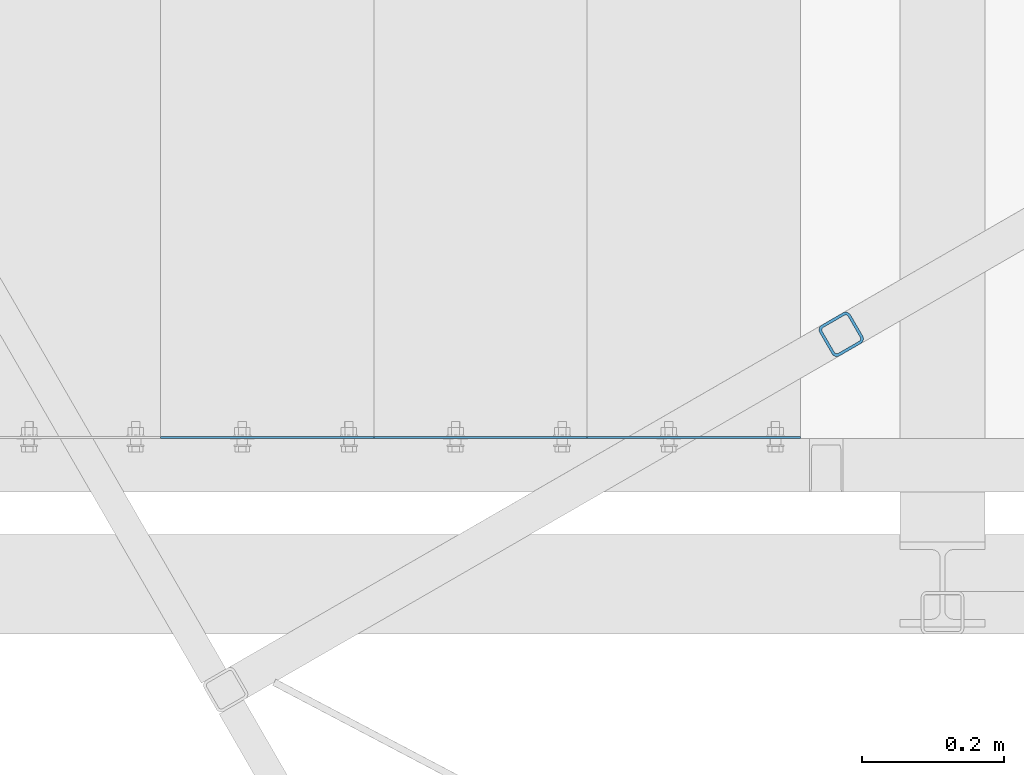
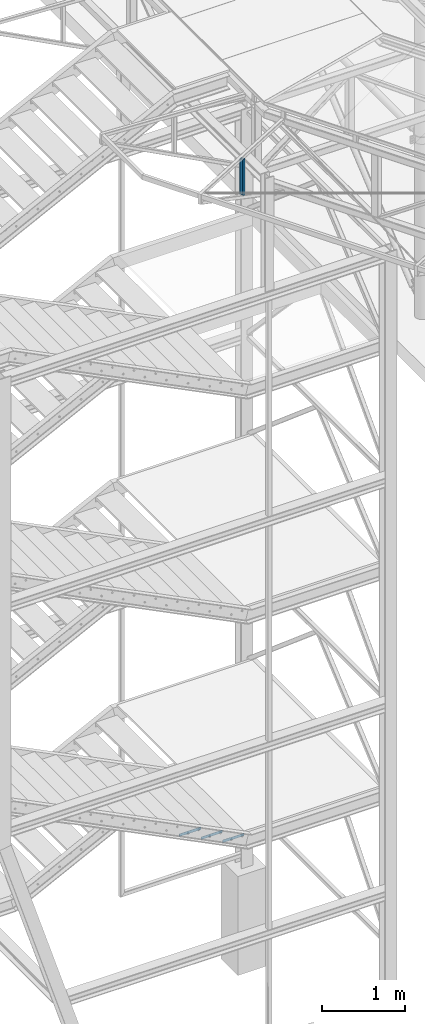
# One storey, part 67 of 132: 4 discrete accessories, 4 elements without a shape of their own.
"""IFC2X3 building model written with IfcOpenShell, lengths in millimetres."""

from ifc_helpers import new_model, si_unit, frame, origin_with_axes, origin_2d_with_axis, place, context, subcontext, project, spatial, rectangle, hollow_rectangle, extrude, clip, halfspace, material, type_object, element, aggregate, save


model = new_model("IFC2X3")

# Units and contexts
model_context = context("Model", 3, precision=1e-05, world=origin_with_axes())
body_context = subcontext(model_context, "Body", "Model", "MODEL_VIEW")
ifc_project = project(units=[si_unit("LENGTHUNIT", "METRE", prefix="MILLI"), si_unit("AREAUNIT", "SQUARE_METRE"), si_unit("VOLUMEUNIT", "CUBIC_METRE"), si_unit("MASSUNIT", "GRAM", prefix="KILO"), si_unit("TIMEUNIT", "SECOND"), si_unit("PLANEANGLEUNIT", "RADIAN"), si_unit("SOLIDANGLEUNIT", "STERADIAN"), si_unit("THERMODYNAMICTEMPERATUREUNIT", "DEGREE_CELSIUS"), si_unit("LUMINOUSINTENSITYUNIT", "LUMEN")], contexts=[model_context])

# Site, building, storey
site_placement = place(None, origin_with_axes())
site = spatial("IfcSite", under=ifc_project, at=site_placement, Name="Budowa", CompositionType="ELEMENT")
building_placement = place(site_placement, origin_with_axes())
building = spatial("IfcBuilding", under=site, at=building_placement, Name="Undefined", CompositionType="ELEMENT")
storey_placement = place(building_placement, origin_with_axes())
storey = spatial("IfcBuildingStorey", under=building, at=storey_placement, Name="Undefined", CompositionType="ELEMENT", Elevation=0.0)

# Assembly, discrete accessory
assembly_1_placement = place(storey_placement, origin_with_axes())
assembly_1 = element("IfcElementAssembly", 1, at=assembly_1_placement, inside=storey, Name="Steel Assembly", AssemblyPlace="NOTDEFINED", PredefinedType="RIGID_FRAME")
ifc_material_1 = material(Name="STEEL/S235")
discrete_accessory_type_1 = type_object("IfcDiscreteAccessoryType", Name="BEAM")
discrete_accessory_1_placement = place(assembly_1_placement, frame((-762.460903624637, 8021.84896381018, 13878.94002838), z_axis=(0.499969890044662, -0.866042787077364, 0.0), x_axis=(0.0, 0.0, -1.0)))
discrete_accessory_1 = element("IfcDiscreteAccessory", 2, at=discrete_accessory_1_placement, type_object=discrete_accessory_type_1, material=ifc_material_1, Name="BEAM", ObjectType="SHS50*4", context=body_context, shape_type="Clipping", body=[
    clip(clip(extrude(hollow_rectangle(XDim=50.0, YDim=50.0, WallThickness=4.0, InnerFilletRadius=4.0, OuterFilletRadius=8.0, at=origin_2d_with_axis()), frame((545.085010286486, 0.0, 0.0), z_axis=(-1.0, 0.0, 0.0), x_axis=(0.0, -1.0, 0.0)), (0.0, 0.0, 1.0), 559.36), halfspace(frame((536.667324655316, 11.6203888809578, 999.999999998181), z_axis=(-0.885407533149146, 0.464815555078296, 0.0), x_axis=(-0.464815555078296, -0.885407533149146, 0.0)), True)), halfspace(frame((0.185048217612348, -1.24844042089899, 999.999999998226), z_axis=(0.998752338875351, -0.0499376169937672, 0.0), x_axis=(0.0499376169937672, 0.998752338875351, 0.0)), True)),
])
aggregate(assembly_1, [discrete_accessory_1])

assembly_2_placement = place(storey_placement, origin_with_axes())
assembly_2 = element("IfcElementAssembly", 3, at=assembly_2_placement, inside=storey, Name="Steel Assembly", AssemblyPlace="NOTDEFINED", PredefinedType="RIGID_FRAME")
ifc_material_2 = material(Name="STEEL/S235JR")
discrete_accessory_type_2 = type_object("IfcDiscreteAccessoryType", Name="ANGLE")
discrete_accessory_2_placement = place(assembly_2_placement, frame((-1420.00000007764, 7876.50000004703, 4379.99999999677), z_axis=(0.0, 1.0, 0.0), x_axis=(-1.0, 0.0, 0.0)))
discrete_accessory_2 = element("IfcDiscreteAccessory", 4, at=discrete_accessory_2_placement, type_object=discrete_accessory_type_2, material=ifc_material_2, Name="ANGLE", ObjectType="3*40", context=body_context, shape_type="SweptSolid", body=[
    extrude(rectangle(XDim=40.0, YDim=3.0, at=origin_2d_with_axis()), frame((300.0, 0.0, 0.0), z_axis=(-1.0, 0.0, 0.0), x_axis=(0.0, -1.0, 0.0)), (0.0, 0.0, 1.0), 300.0),
])
aggregate(assembly_2, [discrete_accessory_2])

assembly_3_placement = place(storey_placement, origin_with_axes())
assembly_3 = element("IfcElementAssembly", 5, at=assembly_3_placement, inside=storey, Name="Steel Assembly", AssemblyPlace="NOTDEFINED", PredefinedType="RIGID_FRAME")
discrete_accessory_3_placement = place(assembly_3_placement, frame((-1120.00000007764, 7876.50000004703, 4229.99999999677), z_axis=(0.0, 1.0, 0.0), x_axis=(-1.0, 0.0, 0.0)))
discrete_accessory_3 = element("IfcDiscreteAccessory", 6, at=discrete_accessory_3_placement, type_object=discrete_accessory_type_2, material=ifc_material_2, Name="ANGLE", ObjectType="3*40", context=body_context, shape_type="SweptSolid", body=[
    extrude(rectangle(XDim=40.0, YDim=3.0, at=origin_2d_with_axis()), frame((300.0, 0.0, 0.0), z_axis=(-1.0, 0.0, 0.0), x_axis=(0.0, -1.0, 0.0)), (0.0, 0.0, 1.0), 300.0),
])
aggregate(assembly_3, [discrete_accessory_3])

assembly_4_placement = place(storey_placement, origin_with_axes())
assembly_4 = element("IfcElementAssembly", 7, at=assembly_4_placement, inside=storey, Name="Steel Assembly", AssemblyPlace="NOTDEFINED", PredefinedType="RIGID_FRAME")
discrete_accessory_4_placement = place(assembly_4_placement, frame((-820.000000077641, 7876.50000004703, 4079.99999999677), z_axis=(0.0, 1.0, 0.0), x_axis=(-1.0, 0.0, 0.0)))
discrete_accessory_4 = element("IfcDiscreteAccessory", 8, at=discrete_accessory_4_placement, type_object=discrete_accessory_type_2, material=ifc_material_2, Name="ANGLE", ObjectType="3*40", context=body_context, shape_type="SweptSolid", body=[
    extrude(rectangle(XDim=40.0, YDim=3.0, at=origin_2d_with_axis()), frame((300.0, 0.0, 0.0), z_axis=(-1.0, 0.0, 0.0), x_axis=(0.0, -1.0, 0.0)), (0.0, 0.0, 1.0), 300.0),
])
aggregate(assembly_4, [discrete_accessory_4])

save(model, "model.ifc")
